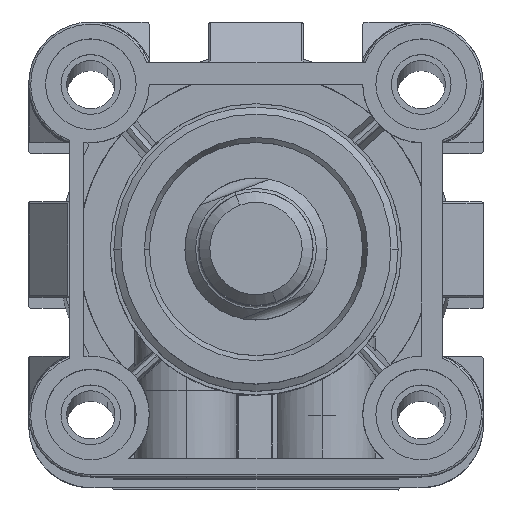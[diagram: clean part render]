
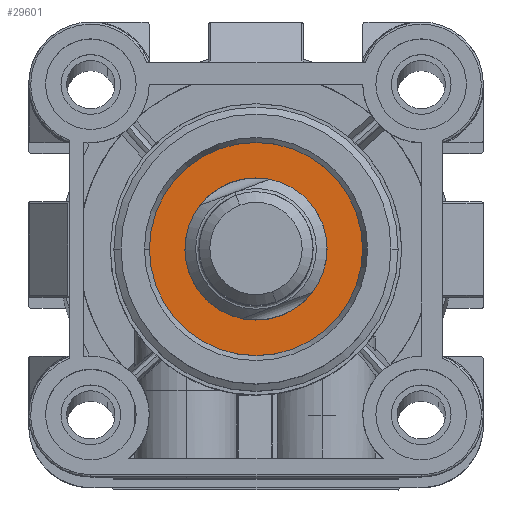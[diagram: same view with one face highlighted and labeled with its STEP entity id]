
A CAD part, top view. The second image highlights one B-rep face of the part: STEP entity #29601.
In plain terms, the highlighted planar face has unit normal (0, 0, 1) as drawn and (0, 0, -1) by its records, which use the part's own axes.
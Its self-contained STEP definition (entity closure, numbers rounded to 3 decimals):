
#295 = EDGE_CURVE ( 'NONE', #875, #5498, #4385, .T. ) ;
#729 = DIRECTION ( 'NONE',  ( 0., 0., -1. ) ) ;
#837 = CIRCLE ( 'NONE', #12260, 10. ) ;
#875 = VERTEX_POINT ( 'NONE', #20773 ) ;
#2362 = CIRCLE ( 'NONE', #24316, 15. ) ;
#3193 = CARTESIAN_POINT ( 'NONE',  ( 36.25, 26.25, -25.4 ) ) ;
#4385 = CIRCLE ( 'NONE', #7498, 10. ) ;
#5301 = DIRECTION ( 'NONE',  ( 0., 0., -1. ) ) ;
#5498 = VERTEX_POINT ( 'NONE', #3193 ) ;
#6308 = DIRECTION ( 'NONE',  ( 0., 0., -1. ) ) ;
#7498 = AXIS2_PLACEMENT_3D ( 'NONE', #19953, #5301, #22418 ) ;
#10001 = FACE_BOUND ( 'NONE', #14506, .T. ) ;
#11872 = AXIS2_PLACEMENT_3D ( 'NONE', #13562, #6308, #23408 ) ;
#12260 = AXIS2_PLACEMENT_3D ( 'NONE', #15528, #729, #17980 ) ;
#12702 = CARTESIAN_POINT ( 'NONE',  ( 26.25, 26.25, -25.4 ) ) ;
#12910 = DIRECTION ( 'NONE',  ( 0., 0., -1. ) ) ;
#13562 = CARTESIAN_POINT ( 'NONE',  ( 41.43, 11.07, -25.4 ) ) ;
#14443 = EDGE_CURVE ( 'NONE', #18673, #15725, #2362, .T. ) ;
#14506 = EDGE_LOOP ( 'NONE', ( #14930, #15790 ) ) ;
#14930 = ORIENTED_EDGE ( 'NONE', *, *, #295, .F. ) ;
#15118 = DIRECTION ( 'NONE',  ( 1., 0., 0. ) ) ;
#15528 = CARTESIAN_POINT ( 'NONE',  ( 26.25, 26.25, -25.4 ) ) ;
#15725 = VERTEX_POINT ( 'NONE', #18649 ) ;
#15790 = ORIENTED_EDGE ( 'NONE', *, *, #24106, .F. ) ;
#17980 = DIRECTION ( 'NONE',  ( -1., 0., 0. ) ) ;
#18649 = CARTESIAN_POINT ( 'NONE',  ( 41.25, 26.25, -25.4 ) ) ;
#18673 = VERTEX_POINT ( 'NONE', #23883 ) ;
#18810 = AXIS2_PLACEMENT_3D ( 'NONE', #12702, #29739, #15118 ) ;
#18815 = ORIENTED_EDGE ( 'NONE', *, *, #14443, .T. ) ;
#19953 = CARTESIAN_POINT ( 'NONE',  ( 26.25, 26.25, -25.4 ) ) ;
#20773 = CARTESIAN_POINT ( 'NONE',  ( 16.25, 26.25, -25.4 ) ) ;
#22418 = DIRECTION ( 'NONE',  ( -1., 0., 0. ) ) ;
#23408 = DIRECTION ( 'NONE',  ( -1., 0., 0. ) ) ;
#23883 = CARTESIAN_POINT ( 'NONE',  ( 11.25, 26.25, -25.4 ) ) ;
#24106 = EDGE_CURVE ( 'NONE', #5498, #875, #837, .T. ) ;
#24316 = AXIS2_PLACEMENT_3D ( 'NONE', #27516, #12910, #29956 ) ;
#26491 = EDGE_CURVE ( 'NONE', #15725, #18673, #27162, .T. ) ;
#27162 = CIRCLE ( 'NONE', #18810, 15. ) ;
#27516 = CARTESIAN_POINT ( 'NONE',  ( 26.25, 26.25, -25.4 ) ) ;
#28074 = PLANE ( 'NONE',  #11872 ) ;
#28639 = FACE_OUTER_BOUND ( 'NONE', #28697, .T. ) ;
#28697 = EDGE_LOOP ( 'NONE', ( #28987, #18815 ) ) ;
#28987 = ORIENTED_EDGE ( 'NONE', *, *, #26491, .T. ) ;
#29601 = ADVANCED_FACE ( 'NONE', ( #10001, #28639 ), #28074, .T. ) ;
#29739 = DIRECTION ( 'NONE',  ( 0., 0., -1. ) ) ;
#29956 = DIRECTION ( 'NONE',  ( 1., 0., 0. ) ) ;
